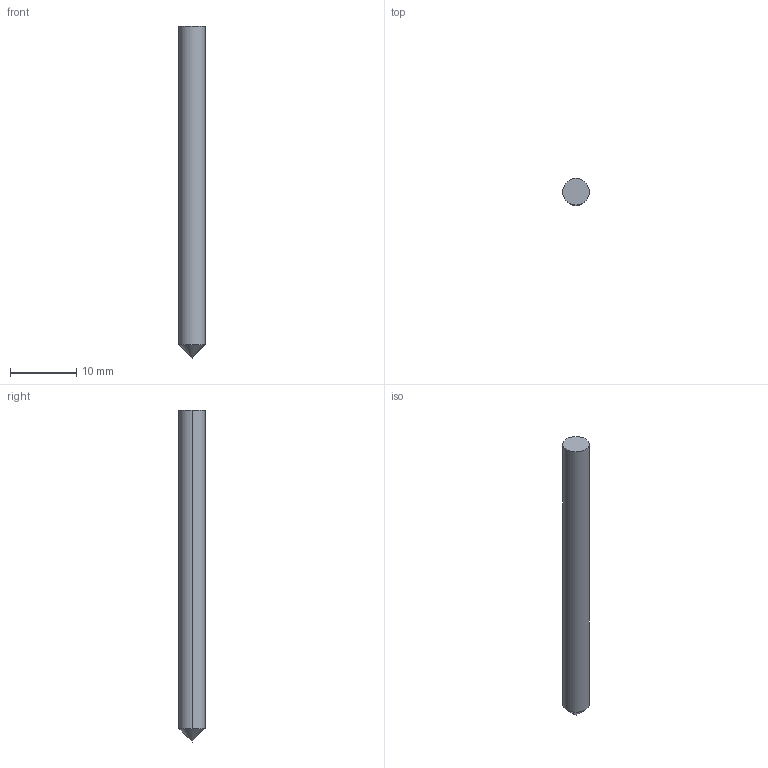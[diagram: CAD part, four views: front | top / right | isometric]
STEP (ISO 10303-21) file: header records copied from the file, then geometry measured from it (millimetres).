
FILE_DESCRIPTION(('STEP AP214'),'1');
FILE_NAME('cctmp_FB186363-B222-4100-A773-D9974D319199_2020_09_30_16_19_24_0322..stp','2020-09-30T14:19:24',('Meusburger Georg GmbH & Co KG'),('CADClick - www.CADClick.com'),'Spatial InterOp 3D',' ','unknown authorization');
FILE_SCHEMA(('AUTOMOTIVE_DESIGN { 1 0 10303 214 1 1 1 1 }'));
Length unit declared in the file: millimetre
Products named in the file (1): WZF15534_4
Bounding box: 4 x 4 x 50 mm (x, y, z)
Volume: 611.6 mm3; surface area: 633.5 mm2
Topology: 1 solids, 1 shells, 5 faces, 10 edges, 5 vertices
Faces by surface type: cylinder 2, cone 2, plane 1
Entity records: 182 total; most frequent: DIRECTION 24, CARTESIAN_POINT 19, ORIENTED_EDGE 16, AXIS2_PLACEMENT_3D 10, EDGE_CURVE 8, STYLED_ITEM 6, PRESENTATION_STYLE_ASSIGNMENT 6, SURFACE_STYLE_USAGE 6
